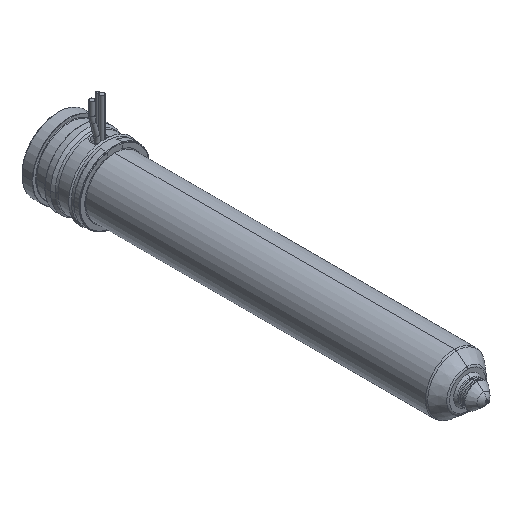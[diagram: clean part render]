
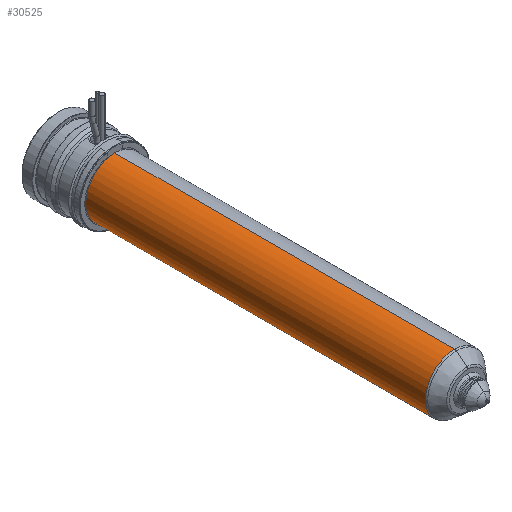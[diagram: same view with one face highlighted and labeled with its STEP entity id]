
A CAD part, isometric view. The second image highlights one B-rep face of the part: STEP entity #30525.
In plain terms, the highlighted cylindrical face has radius 12 mm (diameter 24 mm), a partial arc.
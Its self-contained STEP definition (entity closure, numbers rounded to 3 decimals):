
#29916=CARTESIAN_POINT('',(0.,-163.736,0.));
#29917=DIRECTION('',(0.,-1.,0.));
#29918=DIRECTION('',(0.,0.,1.));
#29919=AXIS2_PLACEMENT_3D('',#29916,#29917,#29918);
#29924=CARTESIAN_POINT('',(0.,-24.,0.));
#29925=DIRECTION('',(0.,1.,0.));
#29926=DIRECTION('',(0.,0.,-1.));
#29927=AXIS2_PLACEMENT_3D('',#29924,#29925,#29926);
#29932=DIRECTION('',(0.,1.,0.));
#29933=VECTOR('',#29932,139.736);
#29934=CARTESIAN_POINT('',(0.,-163.736,12.));
#29935=LINE('',#29934,#29933);
#29947=DIRECTION('',(0.,1.,0.));
#29948=VECTOR('',#29947,139.736);
#29949=CARTESIAN_POINT('',(0.,-163.736,-12.));
#29950=LINE('',#29949,#29948);
#30130=CARTESIAN_POINT('',(0.,-163.736,12.));
#30131=CARTESIAN_POINT('',(0.,-24.,12.));
#30132=VERTEX_POINT('',#30130);
#30133=VERTEX_POINT('',#30131);
#30134=CARTESIAN_POINT('',(0.,-163.736,-12.));
#30135=CARTESIAN_POINT('',(0.,-24.,-12.));
#30136=VERTEX_POINT('',#30134);
#30137=VERTEX_POINT('',#30135);
#30511=CARTESIAN_POINT('',(0.,-12.125,0.));
#30512=DIRECTION('',(0.,-1.,0.));
#30513=DIRECTION('',(0.,0.,1.));
#30514=AXIS2_PLACEMENT_3D('',#30511,#30512,#30513);
#30515=CYLINDRICAL_SURFACE('',#30514,12.);
#30517=ORIENTED_EDGE('',*,*,#30516,.F.);
#30518=ORIENTED_EDGE('',*,*,#30506,.T.);
#30520=ORIENTED_EDGE('',*,*,#30519,.T.);
#30522=ORIENTED_EDGE('',*,*,#30521,.T.);
#30523=EDGE_LOOP('',(#30517,#30518,#30520,#30522));
#30524=FACE_OUTER_BOUND('',#30523,.F.);
#30525=ADVANCED_FACE('',(#30524),#30515,.T.);
#29920=CIRCLE('',#29919,12.);
#29928=CIRCLE('',#29927,12.);
#30506=EDGE_CURVE('',#30132,#30136,#29920,.T.);
#30516=EDGE_CURVE('',#30132,#30133,#29935,.T.);
#30519=EDGE_CURVE('',#30136,#30137,#29950,.T.);
#30521=EDGE_CURVE('',#30137,#30133,#29928,.T.);
